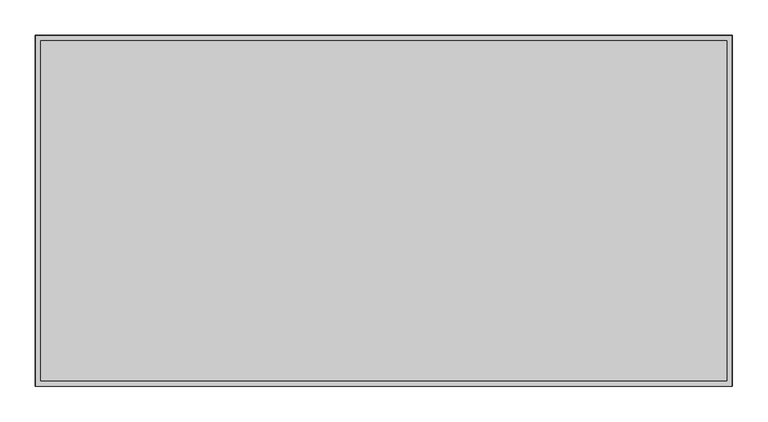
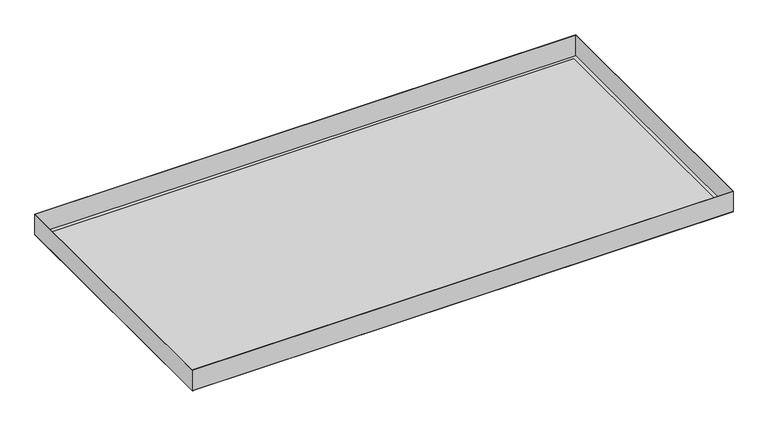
"""IFC4 building model written with IfcOpenShell, lengths in millimetres: proxy geometry, durlum_S7KS_panel : durlum_S7KS_panel_wall_width_cut."""

import ifcopenshell
import ifcopenshell.guid

model = None  # the IFC model being written
_history = None  # IfcOwnerHistory: only IFC2X3 demands one
_inside = {}  # id of a spatial element -> (the spatial element, [elements in it])
_under = {}  # id of a project, library or spatial element -> (it, [spatial elements below it])
_declared = {}  # id of a project -> (the project, [libraries it declares])
_typed = {}  # id of a type object -> (the type object, [elements of that type])
_made_of = {}  # id of a material, layer set ... -> (it, [elements and type objects made of it])


def new_model(schema):
    """Start an empty IFC model of exactly this schema.

    Asked for "IFC4X3", IfcOpenShell would pick the latest addendum, in which some entities
    have other attributes; the version numbers below select the first issue.
    IFC2X3 requires an IfcOwnerHistory on every rooted entity: one is made here for all.
    """
    global model, _history
    if schema == "IFC4X3":
        model = ifcopenshell.file(schema_version=(4, 3, 0, 0))
    else:
        model = ifcopenshell.file(schema=schema)
    _inside.clear()
    _under.clear()
    _declared.clear()
    _typed.clear()
    _made_of.clear()
    _history = None
    if model.schema == "IFC2X3":
        org = make("IfcOrganization", Name="unknown")
        user = make(
            "IfcPersonAndOrganization",
            ThePerson=make("IfcPerson", FamilyName="unknown"),
            TheOrganization=org,
        )
        app = make(
            "IfcApplication",
            ApplicationDeveloper=org,
            Version="unknown",
            ApplicationFullName="unknown",
            ApplicationIdentifier="unknown",
        )
        _history = make(
            "IfcOwnerHistory",
            OwningUser=user,
            OwningApplication=app,
            ChangeAction="ADDED",
            CreationDate=0,
        )
    return model


def make(cls, **values):
    """One entity of the class cls with the attributes given. An attribute that is None is left unset."""
    return model.create_entity(
        cls, **{name: value for name, value in values.items() if value is not None}
    )


def rooted(cls, **values):
    """An entity with a GlobalId (a new one), such as an element, a storey or a relation."""
    return make(cls, GlobalId=ifcopenshell.guid.new(), OwnerHistory=_history, **values)


def si_unit(unit_type, name, prefix=None):
    """IfcSIUnit, for example si_unit("LENGTHUNIT", "METRE", prefix="MILLI")."""
    return make("IfcSIUnit", UnitType=unit_type, Prefix=prefix, Name=name)


def assignment(units):
    """IfcUnitAssignment: the units of a project."""
    return None if units is None else make("IfcUnitAssignment", Units=units)


def point(xyz):
    """IfcCartesianPoint."""
    return None if xyz is None else make("IfcCartesianPoint", Coordinates=xyz)


def direction(xyz):
    """IfcDirection."""
    return None if xyz is None else make("IfcDirection", DirectionRatios=xyz)


def frame(location, z_axis=None, x_axis=None):
    """IfcAxis2Placement3D, a coordinate frame: its origin and axes. An axis left out is left unset."""
    return make(
        "IfcAxis2Placement3D",
        Location=point(location),
        Axis=direction(z_axis),
        RefDirection=direction(x_axis),
    )


def origin():
    """The frame at (0, 0, 0) with its axes left unset."""
    return frame((0.0, 0.0, 0.0))


def origin_with_axes():
    """The frame at (0, 0, 0) with the z axis (0, 0, 1) and the x axis (1, 0, 0) written out."""
    return frame((0.0, 0.0, 0.0), z_axis=(0.0, 0.0, 1.0), x_axis=(1.0, 0.0, 0.0))


def place(relative_to, where):
    """IfcLocalPlacement: puts the frame where relative to a parent placement (None: the world)."""
    return make(
        "IfcLocalPlacement", PlacementRelTo=relative_to, RelativePlacement=where
    )


def context(
    kind, dimensions, precision=None, world=None, true_north=None, identifier=None
):
    """IfcGeometricRepresentationContext, for example the 3D "Model" context."""
    return make(
        "IfcGeometricRepresentationContext",
        ContextIdentifier=identifier,
        ContextType=kind,
        CoordinateSpaceDimension=dimensions,
        Precision=precision,
        WorldCoordinateSystem=world,
        TrueNorth=true_north,
    )


def project(units=None, contexts=None):
    """IfcProject with its units and contexts."""
    return rooted(
        "IfcProject",
        Name="project",
        RepresentationContexts=contexts,
        UnitsInContext=assignment(units),
    )


def spatial(cls, under=None, at=None, **own):
    """A site, building, storey or space (cls), placed at a placement, below another one or the project."""
    s = rooted(cls, ObjectPlacement=at, **own)
    if under is not None:
        _under.setdefault(under.id(), (under, []))[1].append(s)
    return s


def polyline(points):
    """IfcPolyline through the points."""
    return make("IfcPolyline", Points=[point(p) for p in points])


def outline(outer, holes=None, kind="AREA"):
    """IfcArbitraryClosedProfileDef: a profile drawn as a closed curve; with holes, ...WithVoids."""
    if holes is None:
        return make("IfcArbitraryClosedProfileDef", ProfileType=kind, OuterCurve=outer)
    return make(
        "IfcArbitraryProfileDefWithVoids",
        ProfileType=kind,
        OuterCurve=outer,
        InnerCurves=holes,
    )


def extrude(swept, where, along, depth):
    """IfcExtrudedAreaSolid: the profile swept, set in the frame where, extruded along a direction by depth."""
    return make(
        "IfcExtrudedAreaSolid",
        SweptArea=swept,
        Position=where,
        ExtrudedDirection=direction(along),
        Depth=depth,
    )


def shape(context_of_items, identifier, shape_type, items):
    """IfcShapeRepresentation: the items that make up one representation, for example the "Body"."""
    return make(
        "IfcShapeRepresentation",
        ContextOfItems=context_of_items,
        RepresentationIdentifier=identifier,
        RepresentationType=shape_type,
        Items=items,
    )


def source(mapping_origin, context_of_items, identifier, shape_type, items):
    """IfcRepresentationMap: a shape defined once, which mapped items show again and again."""
    return make(
        "IfcRepresentationMap",
        MappingOrigin=mapping_origin,
        MappedRepresentation=shape(context_of_items, identifier, shape_type, items),
    )


def transform(
    local_origin,
    x_axis=None,
    y_axis=None,
    z_axis=None,
    scale=None,
    scale2=None,
    scale3=None,
    uniform=True,
):
    """IfcCartesianTransformationOperator3D, or its non-uniform kind. x_axis, y_axis, z_axis: its Axis1, 2, 3."""
    if uniform:
        return make(
            "IfcCartesianTransformationOperator3D",
            Axis1=direction(x_axis),
            Axis2=direction(y_axis),
            LocalOrigin=point(local_origin),
            Scale=scale,
            Axis3=direction(z_axis),
        )
    return make(
        "IfcCartesianTransformationOperator3DnonUniform",
        Axis1=direction(x_axis),
        Axis2=direction(y_axis),
        LocalOrigin=point(local_origin),
        Scale=scale,
        Axis3=direction(z_axis),
        Scale2=scale2,
        Scale3=scale3,
    )


def mapped(mapping_source, mapping_target):
    """IfcMappedItem: shows the shape of a source again, moved by a transform."""
    return make(
        "IfcMappedItem", MappingSource=mapping_source, MappingTarget=mapping_target
    )


def made_of(thing, what):
    """Note that an element or type object is made of a material, layer set ...; save() writes the relation."""
    if what is not None:
        _made_of.setdefault(what.id(), (what, []))[1].append(thing)
    return thing


def element(
    cls,
    number,
    at=None,
    inside=None,
    cuts=None,
    type_object=None,
    material=None,
    context=None,
    identifier="Body",
    shape_type=None,
    held_by="IfcProductDefinitionShape",
    body=None,
    shapes=None,
    **own,
):
    """One element of the class cls, such as IfcWall. Its Tag is "e" and its number.

    at: its placement. inside: the storey or other place that contains it. cuts: it is an
    opening in that element (IfcRelVoidsElement). A single representation is given by context,
    identifier, shape_type and body (its items); several are given by shapes. held_by: the class
    of the entity that holds the representations. save() writes the other relations.
    """
    e = rooted(cls, Tag="e%d" % number, ObjectPlacement=at, **own)
    if body is not None:
        shapes = [shape(context, identifier, shape_type, body)]
    if shapes is not None:
        e.Representation = make(held_by, Representations=shapes)
    if inside is not None:
        _inside.setdefault(inside.id(), (inside, []))[1].append(e)
    if cuts is not None:
        rooted(
            "IfcRelVoidsElement", RelatingBuildingElement=cuts, RelatedOpeningElement=e
        )
    if type_object is not None:
        _typed.setdefault(type_object.id(), (type_object, []))[1].append(e)
    return made_of(e, material)


def aggregate(whole, parts):
    """IfcRelAggregates: a whole, such as a stair, and the parts it consists of."""
    return rooted("IfcRelAggregates", RelatingObject=whole, RelatedObjects=parts)


def save(model, path):
    """Write the relations noted so far, then the file.

    IfcRelAggregates (storeys below a building ...), IfcRelContainedInSpatialStructure (elements
    in a storey), IfcRelDefinesByType, IfcRelAssociatesMaterial and IfcRelDeclares: one each for
    every whole, place, type object, material and project.
    """
    for whole, parts in _under.values():
        aggregate(whole, parts)
    for where, things in _inside.values():
        rooted(
            "IfcRelContainedInSpatialStructure",
            RelatedElements=things,
            RelatingStructure=where,
        )
    for kind, things in _typed.values():
        rooted("IfcRelDefinesByType", RelatedObjects=things, RelatingType=kind)
    for what, things in _made_of.values():
        rooted("IfcRelAssociatesMaterial", RelatedObjects=things, RelatingMaterial=what)
    for by, libraries in _declared.values():
        rooted("IfcRelDeclares", RelatingContext=by, RelatedDefinitions=libraries)
    model.write(path)


def generic_models_32ab59fa(model_context):
    return source(origin(), model_context, "Body", "SweptSolid", [
        extrude(outline(polyline([(496.0, 249.75), (496.0, -249.75), (-496.0, -249.75), (-496.0, 249.75), (496.0, 249.75)]), holes=[polyline([(495.4, 249.15), (-495.4, 249.15), (-495.4, -249.15), (495.4, -249.15), (495.4, 249.15)])]), frame((0.0, 0.0, 0.6), z_axis=(0.0, 0.0, 1.0), x_axis=(1.0, 0.0, 0.0)), (0.0, 0.0, 1.0), 39.4),
        extrude(outline(polyline([(488.0, 241.75), (488.0, -241.75), (-488.0, -241.75), (-488.0, 241.75), (488.0, 241.75)])), frame((0.0, 0.0, 0.6), z_axis=(0.0, 0.0, 1.0), x_axis=(1.0, 0.0, 0.0)), (0.0, 0.0, 1.0), 0.6),
        extrude(outline(polyline([(496.0, 249.75), (496.0, -249.75), (-496.0, -249.75), (-496.0, 249.75), (496.0, 249.75)]), holes=[polyline([(488.0, 241.75), (-488.0, 241.75), (-488.0, -241.75), (488.0, -241.75), (488.0, 241.75)])]), origin_with_axes(), (0.0, 0.0, 1.0), 0.6),
        extrude(outline(polyline([(488.0, 241.75), (488.0, -241.75), (-488.0, -241.75), (-488.0, 241.75), (488.0, 241.75)])), origin_with_axes(), (0.0, 0.0, 1.0), 0.6),
    ])


if __name__ == "__main__":
    model = new_model("IFC4")
    model_context = context("Model", 3, world=origin())
    ifc_project = project(units=[si_unit("LENGTHUNIT", "METRE", prefix="MILLI")], contexts=[model_context])
    site = spatial("IfcSite", under=ifc_project)
    building = spatial("IfcBuilding", under=site)
    placement = place(None, origin())
    generic_models_shape = generic_models_32ab59fa(model_context)
    element("IfcBuildingElementProxy", 1, Name="durlum_S7KS_panel : durlum_S7KS_panel_wall_width_cut", ObjectType="durlum_S7KS_panel : durlum_S7KS_panel_wall_width_cut", at=placement, inside=building, context=model_context, shape_type="MappedRepresentation", body=[
        mapped(generic_models_shape, transform((0.0, 0.0, 0.0), x_axis=(1.0, 0.0, 0.0), y_axis=(0.0, 1.0, 0.0), z_axis=(0.0, 0.0, 1.0))),
    ])
    save(model, "model.ifc")
